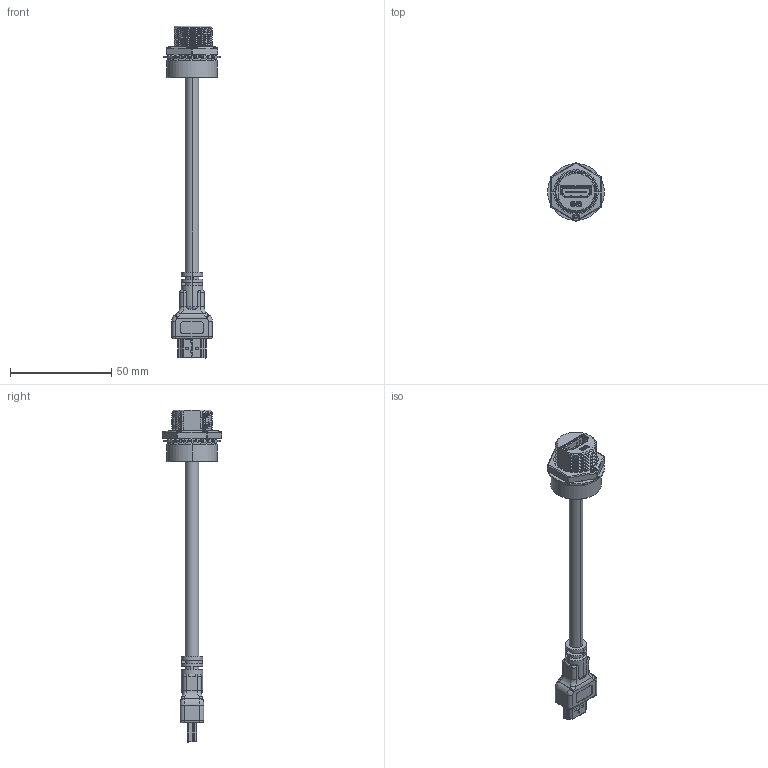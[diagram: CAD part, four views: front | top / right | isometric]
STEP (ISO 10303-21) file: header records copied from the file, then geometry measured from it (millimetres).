
FILE_DESCRIPTION (( 'STEP AP203' ), '1' );
FILE_NAME ('GT2H2300-02-XX.STEP', '2016-05-19T01:18:29', ( '' ), ( '' ), 'SwSTEP 2.0', 'SolidWorks 2012', '' );
FILE_SCHEMA (( 'CONFIG_CONTROL_DESIGN' ));
Length unit declared in the file: millimetre
Products named in the file (14): GT2H2300-02-XX; HDMI非防水公頭; 83024-M0101; HDMI M外模; 652H2-00010; 58225-22002; 67225-00110; 66225-00020; 65225-X0010_01; GLUE; 902H2-01001; 83024-F0101; 592H2-01001; 602H2-3ZA01
Assembly tree (13 placements, depth 3):
  GT2H2300-02-XX
    602H2-3ZA01
    902H2-01001
      592H2-01001
      83024-F0101
    GLUE
    65225-X0010_01
    66225-00020
    67225-00110
    58225-22002
    652H2-00010
    HDMI非防水公頭
      HDMI M外模
      83024-M0101
Bounding box: 27.98 x 29.17 x 163.9 mm (x, y, z)
Volume: 17057.3 mm3; surface area: 18278.8 mm2
Topology: 11 solids, 11 shells, 3211 faces, 8880 edges, 5707 vertices
Faces by surface type: plane 2234, cylinder 732, bspline 148, cone 36, torus 35, sphere 26
Entity records: 139453 total; most frequent: CARTESIAN_POINT 57758, ORIENTED_EDGE 17740, DIRECTION 15425, EDGE_CURVE 8870, LINE 6605, VECTOR 6605, VERTEX_POINT 5704, AXIS2_PLACEMENT_3D 4410
